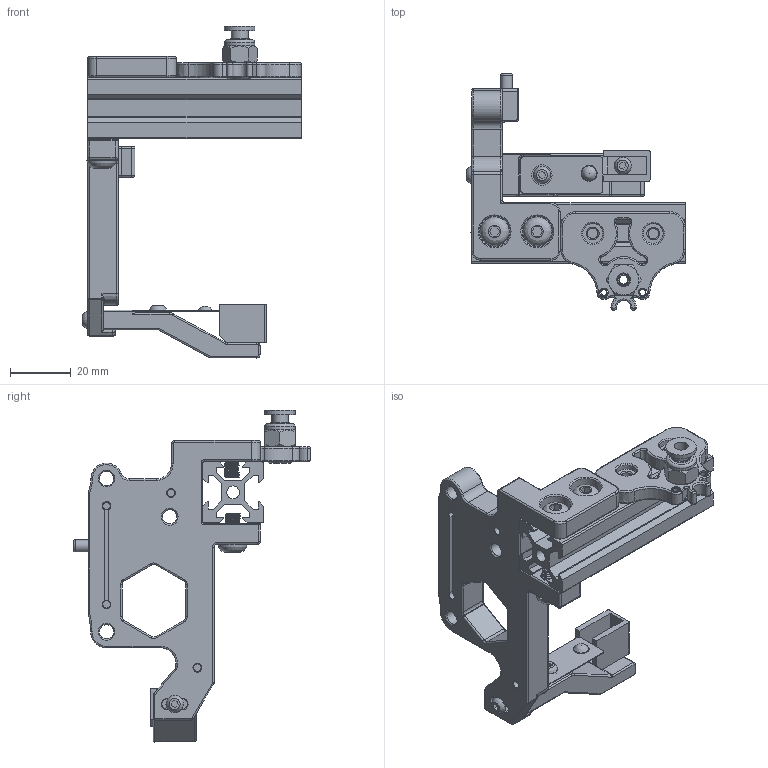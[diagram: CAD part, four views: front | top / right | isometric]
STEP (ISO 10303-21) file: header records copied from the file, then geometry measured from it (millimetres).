
FILE_DESCRIPTION(/* description */ (''),/* implementation_level */ '2;1');
FILE_NAME(/* name */ 'Dock v16.step',/* time_stamp */ '2024-09-09T22:19:11+07:00',/* author */ (''),/* organization */ (''),/* preprocessor_version */ 'ST-DEVELOPER v20',/* originating_system */ 'Autodesk Translation Framework v13.14.0.145',/* authorisation */ '');
FILE_SCHEMA (('AUTOMOTIVE_DESIGN { 1 0 10303 214 3 1 1 }'));
Products named in the file (24): Dock; Hardware (1); 8 x 5mm magnet; m4 x 15mm dowel pin; 8 x 5mm magnet (1); 8 x 5mm magnet (2); m5 x 10mm bhcs; m5 x 8mm bhcs; m3 x 6mm bhcs; m3 hex nut (3); m3 hex nut; m3 washer; m3 x 10mm bhcs; m3 brass insert; AA battery terminal; m5 x 8mm bhcs (1); m3 x 6mm bhcs (1); 8 x 5mm magnet (3); Nozzle Blocker Mount; Dock Body (2); PC4-M10 pneumatic coupling v1; 2020 Extrusion; Umbilical Extrusion Mount; Silicone Brush
Assembly tree (23 placements, depth 3):
  Dock
    Hardware (1)
      8 x 5mm magnet
      m4 x 15mm dowel pin
      8 x 5mm magnet (1)
      8 x 5mm magnet (2)
      m5 x 10mm bhcs
      m5 x 8mm bhcs
      m3 x 6mm bhcs
      m3 hex nut (3)
      m3 hex nut
      m3 washer
      m3 x 10mm bhcs
      m3 brass insert
      AA battery terminal
      m5 x 8mm bhcs (1)
      m3 x 6mm bhcs (1)
      8 x 5mm magnet (3)
    Nozzle Blocker Mount
    Dock Body (2)
    PC4-M10 pneumatic coupling v1
    2020 Extrusion
    Umbilical Extrusion Mount
    Silicone Brush
Bounding box: 71.65 x 77.59 x 108.89 mm (x, y, z)
Volume: 47392.4 mm3; surface area: 35609.9 mm2
Topology: 24 solids, 24 shells, 1395 faces, 3568 edges, 2241 vertices
Faces by surface type: cylinder 574, plane 309, bspline 216, torus 149, cone 139, sphere 8
Full cylindrical faces by diameter (mm): 2 x2, 2.356 x44, 2.376 x10, 2.5 x14, 2.927 x41, 3 x3, 3.4 x5, 3.505 x1, 3.564 x1, 3.99 x10, 4 x1, 4.2 x2, 4.5 x3, 4.7 x4, 4.751 x1, 4.901 x19, 5.5 x6, 5.7 x3, 6.3 x1, 6.5 x2, 6.7 x1, 8 x4, 8.2 x3, 8.917 x4, 9.036 x3, 9.947 x1, 10 x6, 10.147 x3
Entity records: 81042 total; most frequent: CARTESIAN_POINT 48189, ORIENTED_EDGE 7114, DIRECTION 6365, EDGE_CURVE 3557, AXIS2_PLACEMENT_3D 2546, VERTEX_POINT 2241, EDGE_LOOP 1488, FACE_OUTER_BOUND 1395
